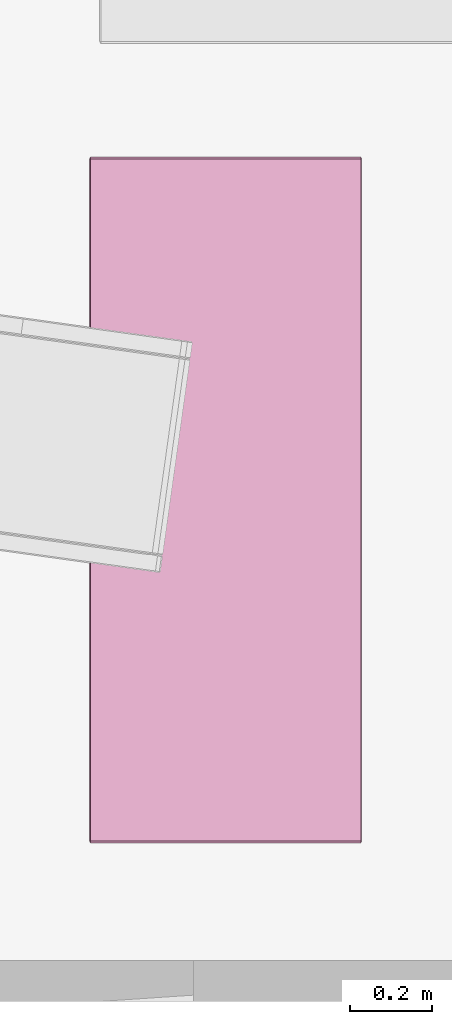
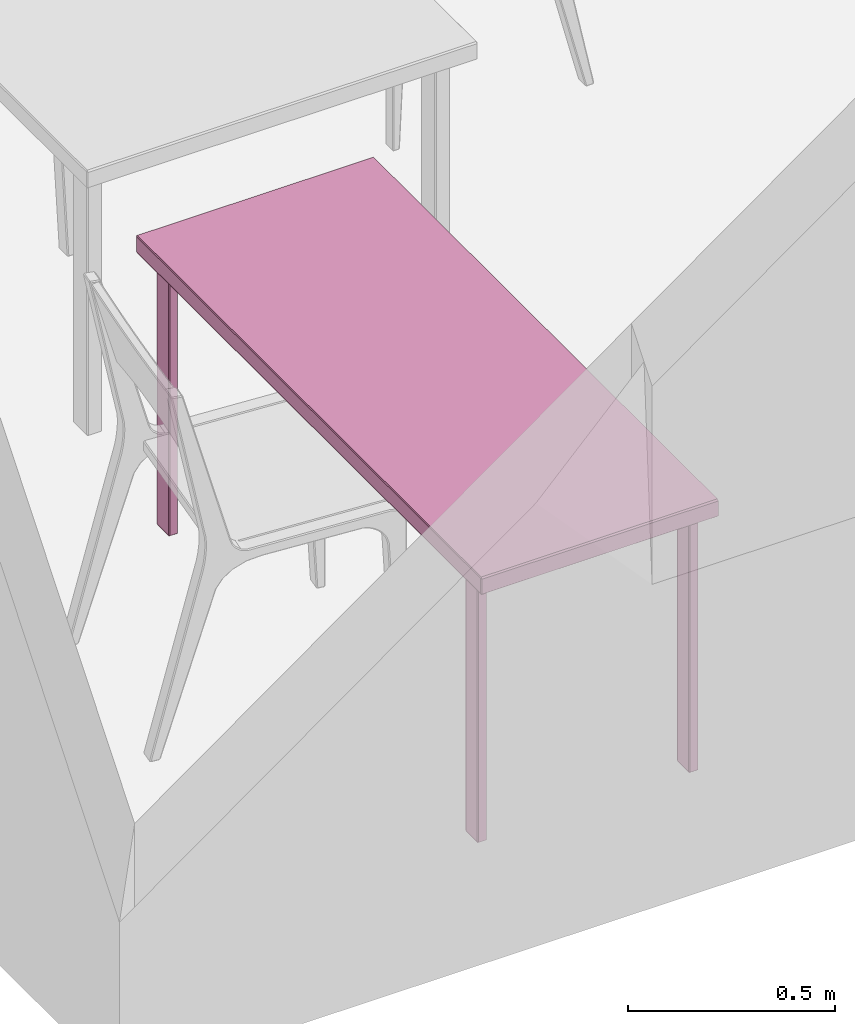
# One storey, part 6 of 26: 1 furniture element.
"""IFC4 building model written with IfcOpenShell, lengths in metres."""

import ifcopenshell
import ifcopenshell.guid

model = None  # the IFC model being written
_history = None  # IfcOwnerHistory: only IFC2X3 demands one
_inside = {}  # id of a spatial element -> (the spatial element, [elements in it])
_under = {}  # id of a project, library or spatial element -> (it, [spatial elements below it])
_declared = {}  # id of a project -> (the project, [libraries it declares])
_typed = {}  # id of a type object -> (the type object, [elements of that type])
_made_of = {}  # id of a material, layer set ... -> (it, [elements and type objects made of it])


def new_model(schema):
    """Start an empty IFC model of exactly this schema.

    Asked for "IFC4X3", IfcOpenShell would pick the latest addendum, in which some entities
    have other attributes; the version numbers below select the first issue.
    IFC2X3 requires an IfcOwnerHistory on every rooted entity: one is made here for all.
    """
    global model, _history
    if schema == "IFC4X3":
        model = ifcopenshell.file(schema_version=(4, 3, 0, 0))
    else:
        model = ifcopenshell.file(schema=schema)
    _inside.clear()
    _under.clear()
    _declared.clear()
    _typed.clear()
    _made_of.clear()
    _history = None
    if model.schema == "IFC2X3":
        org = make("IfcOrganization", Name="unknown")
        user = make(
            "IfcPersonAndOrganization",
            ThePerson=make("IfcPerson", FamilyName="unknown"),
            TheOrganization=org,
        )
        app = make(
            "IfcApplication",
            ApplicationDeveloper=org,
            Version="unknown",
            ApplicationFullName="unknown",
            ApplicationIdentifier="unknown",
        )
        _history = make(
            "IfcOwnerHistory",
            OwningUser=user,
            OwningApplication=app,
            ChangeAction="ADDED",
            CreationDate=0,
        )
    return model


def make(cls, **values):
    """One entity of the class cls with the attributes given. An attribute that is None is left unset."""
    return model.create_entity(
        cls, **{name: value for name, value in values.items() if value is not None}
    )


def rooted(cls, **values):
    """An entity with a GlobalId (a new one), such as an element, a storey or a relation."""
    return make(cls, GlobalId=ifcopenshell.guid.new(), OwnerHistory=_history, **values)


def si_unit(unit_type, name, prefix=None):
    """IfcSIUnit, for example si_unit("LENGTHUNIT", "METRE", prefix="MILLI")."""
    return make("IfcSIUnit", UnitType=unit_type, Prefix=prefix, Name=name)


def assignment(units):
    """IfcUnitAssignment: the units of a project."""
    return None if units is None else make("IfcUnitAssignment", Units=units)


def point(xyz):
    """IfcCartesianPoint."""
    return None if xyz is None else make("IfcCartesianPoint", Coordinates=xyz)


def direction(xyz):
    """IfcDirection."""
    return None if xyz is None else make("IfcDirection", DirectionRatios=xyz)


def frame(location, z_axis=None, x_axis=None):
    """IfcAxis2Placement3D, a coordinate frame: its origin and axes. An axis left out is left unset."""
    return make(
        "IfcAxis2Placement3D",
        Location=point(location),
        Axis=direction(z_axis),
        RefDirection=direction(x_axis),
    )


def origin_with_axes():
    """The frame at (0, 0, 0) with the z axis (0, 0, 1) and the x axis (1, 0, 0) written out."""
    return frame((0.0, 0.0, 0.0), z_axis=(0.0, 0.0, 1.0), x_axis=(1.0, 0.0, 0.0))


def place(relative_to, where):
    """IfcLocalPlacement: puts the frame where relative to a parent placement (None: the world)."""
    return make(
        "IfcLocalPlacement", PlacementRelTo=relative_to, RelativePlacement=where
    )


def context(
    kind, dimensions, precision=None, world=None, true_north=None, identifier=None
):
    """IfcGeometricRepresentationContext, for example the 3D "Model" context."""
    return make(
        "IfcGeometricRepresentationContext",
        ContextIdentifier=identifier,
        ContextType=kind,
        CoordinateSpaceDimension=dimensions,
        Precision=precision,
        WorldCoordinateSystem=world,
        TrueNorth=true_north,
    )


def project(units=None, contexts=None):
    """IfcProject with its units and contexts."""
    return rooted(
        "IfcProject",
        Name="project",
        RepresentationContexts=contexts,
        UnitsInContext=assignment(units),
    )


def spatial(cls, under=None, at=None, **own):
    """A site, building, storey or space (cls), placed at a placement, below another one or the project."""
    s = rooted(cls, ObjectPlacement=at, **own)
    if under is not None:
        _under.setdefault(under.id(), (under, []))[1].append(s)
    return s


def point_list(points):
    """IfcCartesianPointList2D or 3D."""
    cls = (
        "IfcCartesianPointList2D" if len(points[0]) == 2 else "IfcCartesianPointList3D"
    )
    return make(cls, CoordList=points)


def polygons(points, faces, closed=None, point_numbers=None):
    """IfcPolygonalFaceSet: a face is its outer loop, then its inner loops; points numbered from 1."""
    made = []
    for loops in faces:
        if len(loops) == 1:
            made.append(make("IfcIndexedPolygonalFace", CoordIndex=loops[0]))
        else:
            made.append(
                make(
                    "IfcIndexedPolygonalFaceWithVoids",
                    CoordIndex=loops[0],
                    InnerCoordIndices=loops[1:],
                )
            )
    return make(
        "IfcPolygonalFaceSet",
        Coordinates=point_list(points),
        Closed=closed,
        Faces=made,
        PnIndex=point_numbers,
    )


def shape(context_of_items, identifier, shape_type, items):
    """IfcShapeRepresentation: the items that make up one representation, for example the "Body"."""
    return make(
        "IfcShapeRepresentation",
        ContextOfItems=context_of_items,
        RepresentationIdentifier=identifier,
        RepresentationType=shape_type,
        Items=items,
    )


def made_of(thing, what):
    """Note that an element or type object is made of a material, layer set ...; save() writes the relation."""
    if what is not None:
        _made_of.setdefault(what.id(), (what, []))[1].append(thing)
    return thing


def type_object(cls, material=None, **own):
    """A type object (cls), such as IfcWallType, which elements share."""
    return made_of(rooted(cls, **own), material)


def element(
    cls,
    number,
    at=None,
    inside=None,
    cuts=None,
    type_object=None,
    material=None,
    context=None,
    identifier="Body",
    shape_type=None,
    held_by="IfcProductDefinitionShape",
    body=None,
    shapes=None,
    **own,
):
    """One element of the class cls, such as IfcWall. Its Tag is "e" and its number.

    at: its placement. inside: the storey or other place that contains it. cuts: it is an
    opening in that element (IfcRelVoidsElement). A single representation is given by context,
    identifier, shape_type and body (its items); several are given by shapes. held_by: the class
    of the entity that holds the representations. save() writes the other relations.
    """
    e = rooted(cls, Tag="e%d" % number, ObjectPlacement=at, **own)
    if body is not None:
        shapes = [shape(context, identifier, shape_type, body)]
    if shapes is not None:
        e.Representation = make(held_by, Representations=shapes)
    if inside is not None:
        _inside.setdefault(inside.id(), (inside, []))[1].append(e)
    if cuts is not None:
        rooted(
            "IfcRelVoidsElement", RelatingBuildingElement=cuts, RelatedOpeningElement=e
        )
    if type_object is not None:
        _typed.setdefault(type_object.id(), (type_object, []))[1].append(e)
    return made_of(e, material)


def aggregate(whole, parts):
    """IfcRelAggregates: a whole, such as a stair, and the parts it consists of."""
    return rooted("IfcRelAggregates", RelatingObject=whole, RelatedObjects=parts)


def save(model, path):
    """Write the relations noted so far, then the file.

    IfcRelAggregates (storeys below a building ...), IfcRelContainedInSpatialStructure (elements
    in a storey), IfcRelDefinesByType, IfcRelAssociatesMaterial and IfcRelDeclares: one each for
    every whole, place, type object, material and project.
    """
    for whole, parts in _under.values():
        aggregate(whole, parts)
    for where, things in _inside.values():
        rooted(
            "IfcRelContainedInSpatialStructure",
            RelatedElements=things,
            RelatingStructure=where,
        )
    for kind, things in _typed.values():
        rooted("IfcRelDefinesByType", RelatedObjects=things, RelatingType=kind)
    for what, things in _made_of.values():
        rooted("IfcRelAssociatesMaterial", RelatedObjects=things, RelatingMaterial=what)
    for by, libraries in _declared.values():
        rooted("IfcRelDeclares", RelatingContext=by, RelatedDefinitions=libraries)
    model.write(path)


model = new_model("IFC4")

# Units and contexts
model_context = context("Model", 3, precision=1e-05, world=origin_with_axes(), true_north=direction((0.996, -0.093, 0.0)))
ifc_project = project(units=[si_unit("LENGTHUNIT", "METRE"), si_unit("AREAUNIT", "SQUARE_METRE")], contexts=[model_context])

# Site, building, storey, space
site_placement = place(None, origin_with_axes())
site = spatial("IfcSite", under=ifc_project, at=site_placement, Name="Site", CompositionType="ELEMENT")
building_placement = place(site_placement, origin_with_axes())
building = spatial("IfcBuilding", under=site, at=building_placement, Name="Building", CompositionType="ELEMENT")
storey_placement = place(building_placement, frame((0.0, 0.0, 0.0500001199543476), z_axis=(0.0, 0.0, 1.0), x_axis=(1.0, 0.0, 0.0)))
storey = spatial("IfcBuildingStorey", under=building, at=storey_placement, Name="Story 0", CompositionType="ELEMENT", Elevation=0.0500000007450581)
space_placement = place(storey_placement, frame((1.81268445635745, 0.76919262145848, 0.0), z_axis=(0.0, 0.0, 1.0), x_axis=(1.0, 0.0, 0.0)))
space = spatial("IfcSpace", under=storey, at=space_placement, Name="013", CompositionType="ELEMENT")

# Furniture
furniture_type = type_object("IfcFurnitureType", Name="19155ce9-58e0-4843-879d-90afc4240d9e", AssemblyPlace="NOTDEFINED", PredefinedType="USERDEFINED")
furniture_placement = place(space_placement, frame((-2.44607953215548, -4.33557288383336, 0.412878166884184), z_axis=(0.0, 0.0, 1.0000000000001), x_axis=(-0.999999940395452, 0.0, 0.0)))
element("IfcFurniture", 1, at=furniture_placement, inside=space, type_object=furniture_type, Name="Table", ObjectType="Table", PredefinedType="USERDEFINED", context=model_context, shape_type="Tessellation", body=[
    polygons([(0.329, 0.8338, 0.365), (-0.329, 0.8338, 0.365), (0.329, 0.8338, 0.4092), (-0.329, 0.8338, 0.4092), (0.329, 0.8338, 0.4092), (-0.329, 0.8338, 0.365), (0.282, -0.772, 0.3743), (0.282, -0.7173, 0.3743), (0.282, -0.772, -0.4092), (0.282, -0.7173, -0.4092), (0.282, -0.772, -0.4092), (0.282, -0.7173, 0.3743), (0.3054, -0.7762, 0.3743), (0.2837, -0.7762, 0.3743), (0.3054, -0.7762, -0.4092), (0.2837, -0.7762, -0.4092), (0.3054, -0.7762, -0.4092), (0.2837, -0.7762, 0.3743), (0.307, -0.7173, 0.3743), (0.307, -0.772, 0.3743), (0.307, -0.7173, -0.4092), (0.307, -0.772, -0.4092), (0.307, -0.7173, -0.4092), (0.307, -0.772, 0.3743), (0.2837, -0.7131, 0.3743), (0.3054, -0.7131, 0.3743), (0.2837, -0.7131, -0.4092), (0.3054, -0.7131, -0.4092), (0.2837, -0.7131, -0.4092), (0.3054, -0.7131, 0.3743), (0.282, 0.772, 0.3743), (0.282, 0.772, -0.4092), (0.282, 0.7173, 0.3743), (0.282, 0.7173, -0.4092), (0.282, 0.7173, 0.3743), (0.282, 0.772, -0.4092), (0.3054, 0.7762, 0.3743), (0.3054, 0.7762, -0.4092), (0.2837, 0.7762, 0.3743), (0.2837, 0.7762, -0.4092), (0.2837, 0.7762, 0.3743), (0.3054, 0.7762, -0.4092), (0.307, 0.7173, 0.3743), (0.307, 0.7173, -0.4092), (0.307, 0.772, 0.3743), (0.307, 0.772, -0.4092), (0.307, 0.772, 0.3743), (0.307, 0.7173, -0.4092), (0.2837, 0.7131, 0.3743), (0.2837, 0.7131, -0.4092), (0.3054, 0.7131, 0.3743), (0.3054, 0.7131, -0.4092), (0.3054, 0.7131, 0.3743), (0.2837, 0.7131, -0.4092), (0.3306, 0.8296, 0.365), (0.3306, 0.8296, 0.4092), (0.3306, -0.8296, 0.365), (0.3306, -0.8296, 0.4092), (0.3306, -0.8296, 0.365), (0.3306, 0.8296, 0.4092), (-0.3306, 0.8296, 0.4092), (-0.3306, 0.8296, 0.365), (-0.3306, -0.8296, 0.4092), (-0.3306, -0.8296, 0.365), (-0.3306, -0.8296, 0.4092), (-0.3306, 0.8296, 0.365), (-0.282, -0.772, 0.3743), (-0.282, -0.772, -0.4092), (-0.282, -0.7173, 0.3743), (-0.282, -0.7173, -0.4092), (-0.282, -0.7173, 0.3743), (-0.282, -0.772, -0.4092), (-0.3054, -0.7762, 0.3743), (-0.3054, -0.7762, -0.4092), (-0.2837, -0.7762, 0.3743), (-0.2837, -0.7762, -0.4092), (-0.2837, -0.7762, 0.3743), (-0.3054, -0.7762, -0.4092), (-0.307, -0.7173, 0.3743), (-0.307, -0.7173, -0.4092), (-0.307, -0.772, 0.3743), (-0.307, -0.772, -0.4092), (-0.307, -0.772, 0.3743), (-0.307, -0.7173, -0.4092), (-0.2837, -0.7131, 0.3743), (-0.2837, -0.7131, -0.4092), (-0.3054, -0.7131, 0.3743), (-0.3054, -0.7131, -0.4092), (-0.3054, -0.7131, 0.3743), (-0.2837, -0.7131, -0.4092), (-0.282, 0.772, 0.3743), (-0.282, 0.7173, 0.3743), (-0.282, 0.772, -0.4092), (-0.282, 0.7173, -0.4092), (-0.282, 0.772, -0.4092), (-0.282, 0.7173, 0.3743), (-0.3054, 0.7762, 0.3743), (-0.2837, 0.7762, 0.3743), (-0.3054, 0.7762, -0.4092), (-0.2837, 0.7762, -0.4092), (-0.3054, 0.7762, -0.4092), (-0.2837, 0.7762, 0.3743), (-0.307, 0.7173, 0.3743), (-0.307, 0.772, 0.3743), (-0.307, 0.7173, -0.4092), (-0.307, 0.772, -0.4092), (-0.307, 0.7173, -0.4092), (-0.307, 0.772, 0.3743), (-0.2837, 0.7131, 0.3743), (-0.3054, 0.7131, 0.3743), (-0.2837, 0.7131, -0.4092), (-0.3054, 0.7131, -0.4092), (-0.2837, 0.7131, -0.4092), (-0.3054, 0.7131, 0.3743), (-0.329, 0.8296, 0.4129), (-0.329, -0.8296, 0.4129), (0.329, 0.8296, 0.4129), (0.329, -0.8296, 0.4129), (0.329, 0.8296, 0.4129), (-0.329, -0.8296, 0.4129), (0.329, -0.8338, 0.365), (0.329, -0.8338, 0.4092), (-0.329, -0.8338, 0.365), (-0.329, -0.8338, 0.4092), (-0.329, -0.8338, 0.365), (0.329, -0.8338, 0.4092), (0.329, -0.8296, 0.3613), (-0.329, -0.8296, 0.3613), (0.329, 0.8296, 0.3613), (-0.329, 0.8296, 0.3613), (0.329, 0.8296, 0.3613), (-0.329, -0.8296, 0.3613), (0.3054, -0.772, 0.3779), (0.3054, -0.7173, 0.3779), (0.2837, -0.772, 0.3779), (0.2837, -0.7173, 0.3779), (0.2837, -0.772, 0.3779), (0.3054, -0.7173, 0.3779), (0.3054, -0.7173, -0.4129), (0.3054, -0.772, -0.4129), (0.2837, -0.7173, -0.4129), (0.2837, -0.772, -0.4129), (0.2837, -0.7173, -0.4129), (0.3054, -0.772, -0.4129), (0.3054, 0.772, -0.4129), (0.3054, 0.7173, -0.4129), (0.2837, 0.772, -0.4129), (0.2837, 0.7173, -0.4129), (0.2837, 0.772, -0.4129), (0.3054, 0.7173, -0.4129), (0.3054, 0.7173, 0.3779), (0.3054, 0.772, 0.3779), (0.2837, 0.7173, 0.3779), (0.2837, 0.772, 0.3779), (0.2837, 0.7173, 0.3779), (0.3054, 0.772, 0.3779), (-0.3054, -0.772, -0.4129), (-0.3054, -0.7173, -0.4129), (-0.2837, -0.772, -0.4129), (-0.2837, -0.7173, -0.4129), (-0.2837, -0.772, -0.4129), (-0.3054, -0.7173, -0.4129), (-0.3054, -0.7173, 0.3779), (-0.3054, -0.772, 0.3779), (-0.2837, -0.7173, 0.3779), (-0.2837, -0.772, 0.3779), (-0.2837, -0.7173, 0.3779), (-0.3054, -0.772, 0.3779), (-0.3054, 0.772, 0.3779), (-0.3054, 0.7173, 0.3779), (-0.2837, 0.772, 0.3779), (-0.2837, 0.7173, 0.3779), (-0.2837, 0.772, 0.3779), (-0.3054, 0.7173, 0.3779), (-0.3054, 0.7173, -0.4129), (-0.3054, 0.772, -0.4129), (-0.2837, 0.7173, -0.4129), (-0.2837, 0.772, -0.4129), (-0.2837, 0.7173, -0.4129), (-0.3054, 0.772, -0.4129), (-0.329, 0.8296, 0.4129), (-0.329, 0.8338, 0.4092), (-0.3306, 0.8296, 0.4092), (0.2837, -0.7173, -0.4129), (0.282, -0.7173, -0.4092), (0.2837, -0.7131, -0.4092), (0.2837, -0.772, -0.4129), (0.2837, -0.7762, -0.4092), (0.282, -0.772, -0.4092), (0.3054, -0.772, -0.4129), (0.307, -0.772, -0.4092), (0.3054, -0.7762, -0.4092), (0.3054, -0.7173, -0.4129), (0.3054, -0.7131, -0.4092), (0.307, -0.7173, -0.4092), (0.2837, -0.7173, 0.3779), (0.2837, -0.7131, 0.3743), (0.282, -0.7173, 0.3743), (0.2837, 0.7131, -0.4092), (0.282, 0.7173, -0.4092), (0.2837, 0.7173, -0.4129), (0.2837, 0.772, 0.3779), (0.2837, 0.7762, 0.3743), (0.282, 0.772, 0.3743), (0.3054, 0.772, 0.3779), (0.307, 0.772, 0.3743), (0.3054, 0.7762, 0.3743), (0.3054, 0.7173, 0.3779), (0.3054, 0.7131, 0.3743), (0.307, 0.7173, 0.3743), (0.329, -0.8338, 0.4092), (0.3306, -0.8296, 0.4092), (0.329, -0.8296, 0.4129), (0.329, 0.8296, 0.4129), (0.3306, 0.8296, 0.4092), (0.329, 0.8338, 0.4092), (-0.329, -0.8338, 0.365), (-0.3306, -0.8296, 0.365), (-0.329, -0.8296, 0.3613), (-0.329, 0.8296, 0.3613), (-0.3306, 0.8296, 0.365), (-0.329, 0.8338, 0.365), (-0.2837, -0.7131, -0.4092), (-0.282, -0.7173, -0.4092), (-0.2837, -0.7173, -0.4129), (-0.2837, -0.772, 0.3779), (-0.2837, -0.7762, 0.3743), (-0.282, -0.772, 0.3743), (-0.3054, -0.772, 0.3779), (-0.307, -0.772, 0.3743), (-0.3054, -0.7762, 0.3743), (-0.3054, -0.7173, 0.3779), (-0.3054, -0.7131, 0.3743), (-0.307, -0.7173, 0.3743), (-0.2837, 0.7173, -0.4129), (-0.282, 0.7173, -0.4092), (-0.2837, 0.7131, -0.4092), (-0.2837, 0.772, -0.4129), (-0.2837, 0.7762, -0.4092), (-0.282, 0.772, -0.4092), (-0.3054, 0.772, -0.4129), (-0.307, 0.772, -0.4092), (-0.3054, 0.7762, -0.4092), (-0.3054, 0.7173, -0.4129), (-0.3054, 0.7131, -0.4092), (-0.307, 0.7173, -0.4092), (-0.2837, 0.7173, 0.3779), (-0.2837, 0.7131, 0.3743), (-0.282, 0.7173, 0.3743), (-0.329, -0.8338, 0.4092), (-0.329, -0.8296, 0.4129), (-0.3306, -0.8296, 0.4092), (0.329, -0.8338, 0.365), (0.329, -0.8296, 0.3613), (0.3306, -0.8296, 0.365), (0.3306, 0.8296, 0.365), (0.329, 0.8296, 0.3613), (0.329, 0.8338, 0.365), (0.3054, -0.7131, 0.3743), (0.3054, -0.7173, 0.3779), (0.307, -0.7173, 0.3743), (0.307, -0.772, 0.3743), (0.3054, -0.772, 0.3779), (0.3054, -0.7762, 0.3743), (0.2837, -0.7762, 0.3743), (0.2837, -0.772, 0.3779), (0.282, -0.772, 0.3743), (0.3054, 0.7131, -0.4092), (0.3054, 0.7173, -0.4129), (0.307, 0.7173, -0.4092), (0.307, 0.772, -0.4092), (0.3054, 0.772, -0.4129), (0.3054, 0.7762, -0.4092), (0.2837, 0.7762, -0.4092), (0.2837, 0.772, -0.4129), (0.282, 0.772, -0.4092), (0.2837, 0.7131, 0.3743), (0.2837, 0.7173, 0.3779), (0.282, 0.7173, 0.3743), (-0.3054, -0.7131, -0.4092), (-0.3054, -0.7173, -0.4129), (-0.307, -0.7173, -0.4092), (-0.307, -0.772, -0.4092), (-0.3054, -0.772, -0.4129), (-0.3054, -0.7762, -0.4092), (-0.2837, -0.7762, -0.4092), (-0.2837, -0.772, -0.4129), (-0.282, -0.772, -0.4092), (-0.2837, -0.7131, 0.3743), (-0.2837, -0.7173, 0.3779), (-0.282, -0.7173, 0.3743), (-0.3054, 0.7131, 0.3743), (-0.3054, 0.7173, 0.3779), (-0.307, 0.7173, 0.3743), (-0.307, 0.772, 0.3743), (-0.3054, 0.772, 0.3779), (-0.3054, 0.7762, 0.3743), (-0.2837, 0.7762, 0.3743), (-0.2837, 0.772, 0.3779), (-0.282, 0.772, 0.3743), (-0.329, 0.8338, 0.4092), (-0.329, 0.8338, 0.365), (-0.3306, 0.8296, 0.4092), (-0.3306, 0.8296, 0.365), (-0.3306, 0.8296, 0.4092), (-0.329, 0.8338, 0.365), (-0.329, 0.8338, 0.365), (0.329, 0.8338, 0.365), (-0.329, 0.8296, 0.3613), (0.329, 0.8296, 0.3613), (-0.329, 0.8296, 0.3613), (0.329, 0.8338, 0.365), (0.329, 0.8338, 0.365), (0.329, 0.8338, 0.4092), (0.3306, 0.8296, 0.365), (0.3306, 0.8296, 0.4092), (0.3306, 0.8296, 0.365), (0.329, 0.8338, 0.4092), (0.329, 0.8338, 0.4092), (-0.329, 0.8338, 0.4092), (0.329, 0.8296, 0.4129), (-0.329, 0.8296, 0.4129), (0.329, 0.8296, 0.4129), (-0.329, 0.8338, 0.4092), (0.282, -0.7173, -0.4092), (0.282, -0.7173, 0.3743), (0.2837, -0.7131, -0.4092), (0.2837, -0.7131, 0.3743), (0.2837, -0.7131, -0.4092), (0.282, -0.7173, 0.3743), (0.282, -0.7173, 0.3743), (0.282, -0.772, 0.3743), (0.2837, -0.7173, 0.3779), (0.2837, -0.772, 0.3779), (0.2837, -0.7173, 0.3779), (0.282, -0.772, 0.3743), (0.282, -0.772, 0.3743), (0.282, -0.772, -0.4092), (0.2837, -0.7762, 0.3743), (0.2837, -0.7762, -0.4092), (0.2837, -0.7762, 0.3743), (0.282, -0.772, -0.4092), (0.282, -0.772, -0.4092), (0.282, -0.7173, -0.4092), (0.2837, -0.772, -0.4129), (0.2837, -0.7173, -0.4129), (0.2837, -0.772, -0.4129), (0.282, -0.7173, -0.4092), (0.2837, -0.7762, 0.3743), (0.3054, -0.7762, 0.3743), (0.2837, -0.772, 0.3779), (0.3054, -0.772, 0.3779), (0.2837, -0.772, 0.3779), (0.3054, -0.7762, 0.3743), (0.3054, -0.7762, 0.3743), (0.3054, -0.7762, -0.4092), (0.307, -0.772, 0.3743), (0.307, -0.772, -0.4092), (0.307, -0.772, 0.3743), (0.3054, -0.7762, -0.4092), (0.3054, -0.7762, -0.4092), (0.2837, -0.7762, -0.4092), (0.3054, -0.772, -0.4129), (0.2837, -0.772, -0.4129), (0.3054, -0.772, -0.4129), (0.2837, -0.7762, -0.4092), (0.307, -0.772, 0.3743), (0.307, -0.7173, 0.3743), (0.3054, -0.772, 0.3779), (0.3054, -0.7173, 0.3779), (0.3054, -0.772, 0.3779), (0.307, -0.7173, 0.3743), (0.307, -0.7173, 0.3743), (0.307, -0.7173, -0.4092), (0.3054, -0.7131, 0.3743), (0.3054, -0.7131, -0.4092), (0.3054, -0.7131, 0.3743), (0.307, -0.7173, -0.4092), (0.307, -0.7173, -0.4092), (0.307, -0.772, -0.4092), (0.3054, -0.7173, -0.4129), (0.3054, -0.772, -0.4129), (0.3054, -0.7173, -0.4129), (0.307, -0.772, -0.4092), (0.3054, -0.7131, 0.3743), (0.2837, -0.7131, 0.3743), (0.3054, -0.7173, 0.3779), (0.2837, -0.7173, 0.3779), (0.3054, -0.7173, 0.3779), (0.2837, -0.7131, 0.3743), (0.2837, -0.7131, -0.4092), (0.3054, -0.7131, -0.4092), (0.2837, -0.7173, -0.4129), (0.3054, -0.7173, -0.4129), (0.2837, -0.7173, -0.4129), (0.3054, -0.7131, -0.4092), (0.282, 0.7173, -0.4092), (0.282, 0.772, -0.4092), (0.2837, 0.7173, -0.4129), (0.2837, 0.772, -0.4129), (0.2837, 0.7173, -0.4129), (0.282, 0.772, -0.4092), (0.282, 0.772, -0.4092), (0.282, 0.772, 0.3743), (0.2837, 0.7762, -0.4092), (0.2837, 0.7762, 0.3743), (0.2837, 0.7762, -0.4092), (0.282, 0.772, 0.3743), (0.282, 0.772, 0.3743), (0.282, 0.7173, 0.3743), (0.2837, 0.772, 0.3779), (0.2837, 0.7173, 0.3779), (0.2837, 0.772, 0.3779), (0.282, 0.7173, 0.3743), (0.282, 0.7173, 0.3743), (0.282, 0.7173, -0.4092), (0.2837, 0.7131, 0.3743), (0.2837, 0.7131, -0.4092), (0.2837, 0.7131, 0.3743), (0.282, 0.7173, -0.4092), (0.2837, 0.7762, -0.4092), (0.3054, 0.7762, -0.4092), (0.2837, 0.772, -0.4129), (0.3054, 0.772, -0.4129), (0.2837, 0.772, -0.4129), (0.3054, 0.7762, -0.4092), (0.3054, 0.7762, -0.4092), (0.3054, 0.7762, 0.3743), (0.307, 0.772, -0.4092), (0.307, 0.772, 0.3743), (0.307, 0.772, -0.4092), (0.3054, 0.7762, 0.3743), (0.3054, 0.7762, 0.3743), (0.2837, 0.7762, 0.3743), (0.3054, 0.772, 0.3779), (0.2837, 0.772, 0.3779), (0.3054, 0.772, 0.3779), (0.2837, 0.7762, 0.3743), (0.307, 0.772, -0.4092), (0.307, 0.7173, -0.4092), (0.3054, 0.772, -0.4129), (0.3054, 0.7173, -0.4129), (0.3054, 0.772, -0.4129), (0.307, 0.7173, -0.4092), (0.307, 0.7173, -0.4092), (0.307, 0.7173, 0.3743), (0.3054, 0.7131, -0.4092), (0.3054, 0.7131, 0.3743), (0.3054, 0.7131, -0.4092), (0.307, 0.7173, 0.3743), (0.307, 0.7173, 0.3743), (0.307, 0.772, 0.3743), (0.3054, 0.7173, 0.3779), (0.3054, 0.772, 0.3779), (0.3054, 0.7173, 0.3779), (0.307, 0.772, 0.3743), (0.3054, 0.7131, -0.4092), (0.2837, 0.7131, -0.4092), (0.3054, 0.7173, -0.4129), (0.2837, 0.7173, -0.4129), (0.3054, 0.7173, -0.4129), (0.2837, 0.7131, -0.4092), (0.2837, 0.7131, 0.3743), (0.3054, 0.7131, 0.3743), (0.2837, 0.7173, 0.3779), (0.3054, 0.7173, 0.3779), (0.2837, 0.7173, 0.3779), (0.3054, 0.7131, 0.3743), (0.3306, -0.8296, 0.4092), (0.3306, 0.8296, 0.4092), (0.329, -0.8296, 0.4129), (0.329, 0.8296, 0.4129), (0.329, -0.8296, 0.4129), (0.3306, 0.8296, 0.4092), (0.3306, 0.8296, 0.365), (0.3306, -0.8296, 0.365), (0.329, 0.8296, 0.3613), (0.329, -0.8296, 0.3613), (0.329, 0.8296, 0.3613), (0.3306, -0.8296, 0.365), (0.3306, -0.8296, 0.365), (0.3306, -0.8296, 0.4092), (0.329, -0.8338, 0.365), (0.329, -0.8338, 0.4092), (0.329, -0.8338, 0.365), (0.3306, -0.8296, 0.4092), (-0.3306, -0.8296, 0.365), (-0.3306, 0.8296, 0.365), (-0.329, -0.8296, 0.3613), (-0.329, 0.8296, 0.3613), (-0.329, -0.8296, 0.3613), (-0.3306, 0.8296, 0.365), (-0.3306, 0.8296, 0.4092), (-0.3306, -0.8296, 0.4092), (-0.329, 0.8296, 0.4129), (-0.329, -0.8296, 0.4129), (-0.329, 0.8296, 0.4129), (-0.3306, -0.8296, 0.4092), (-0.3306, -0.8296, 0.4092), (-0.3306, -0.8296, 0.365), (-0.329, -0.8338, 0.4092), (-0.329, -0.8338, 0.365), (-0.329, -0.8338, 0.4092), (-0.3306, -0.8296, 0.365), (-0.282, -0.7173, -0.4092), (-0.282, -0.772, -0.4092), (-0.2837, -0.7173, -0.4129), (-0.2837, -0.772, -0.4129), (-0.2837, -0.7173, -0.4129), (-0.282, -0.772, -0.4092), (-0.282, -0.772, -0.4092), (-0.282, -0.772, 0.3743), (-0.2837, -0.7762, -0.4092), (-0.2837, -0.7762, 0.3743), (-0.2837, -0.7762, -0.4092), (-0.282, -0.772, 0.3743), (-0.282, -0.772, 0.3743), (-0.282, -0.7173, 0.3743), (-0.2837, -0.772, 0.3779), (-0.2837, -0.7173, 0.3779), (-0.2837, -0.772, 0.3779), (-0.282, -0.7173, 0.3743), (-0.282, -0.7173, 0.3743), (-0.282, -0.7173, -0.4092), (-0.2837, -0.7131, 0.3743), (-0.2837, -0.7131, -0.4092), (-0.2837, -0.7131, 0.3743), (-0.282, -0.7173, -0.4092), (-0.2837, -0.7762, -0.4092), (-0.3054, -0.7762, -0.4092), (-0.2837, -0.772, -0.4129), (-0.3054, -0.772, -0.4129), (-0.2837, -0.772, -0.4129), (-0.3054, -0.7762, -0.4092), (-0.3054, -0.7762, -0.4092), (-0.3054, -0.7762, 0.3743), (-0.307, -0.772, -0.4092), (-0.307, -0.772, 0.3743), (-0.307, -0.772, -0.4092), (-0.3054, -0.7762, 0.3743), (-0.3054, -0.7762, 0.3743), (-0.2837, -0.7762, 0.3743), (-0.3054, -0.772, 0.3779), (-0.2837, -0.772, 0.3779), (-0.3054, -0.772, 0.3779), (-0.2837, -0.7762, 0.3743), (-0.307, -0.772, -0.4092), (-0.307, -0.7173, -0.4092), (-0.3054, -0.772, -0.4129), (-0.3054, -0.7173, -0.4129), (-0.3054, -0.772, -0.4129), (-0.307, -0.7173, -0.4092), (-0.307, -0.7173, -0.4092), (-0.307, -0.7173, 0.3743), (-0.3054, -0.7131, -0.4092), (-0.3054, -0.7131, 0.3743), (-0.3054, -0.7131, -0.4092), (-0.307, -0.7173, 0.3743), (-0.307, -0.7173, 0.3743), (-0.307, -0.772, 0.3743), (-0.3054, -0.7173, 0.3779), (-0.3054, -0.772, 0.3779), (-0.3054, -0.7173, 0.3779), (-0.307, -0.772, 0.3743), (-0.3054, -0.7131, -0.4092), (-0.2837, -0.7131, -0.4092), (-0.3054, -0.7173, -0.4129), (-0.2837, -0.7173, -0.4129), (-0.3054, -0.7173, -0.4129), (-0.2837, -0.7131, -0.4092), (-0.2837, -0.7131, 0.3743), (-0.3054, -0.7131, 0.3743), (-0.2837, -0.7173, 0.3779), (-0.3054, -0.7173, 0.3779), (-0.2837, -0.7173, 0.3779), (-0.3054, -0.7131, 0.3743), (-0.282, 0.7173, -0.4092), (-0.282, 0.7173, 0.3743), (-0.2837, 0.7131, -0.4092), (-0.2837, 0.7131, 0.3743), (-0.2837, 0.7131, -0.4092), (-0.282, 0.7173, 0.3743), (-0.282, 0.7173, 0.3743), (-0.282, 0.772, 0.3743), (-0.2837, 0.7173, 0.3779), (-0.2837, 0.772, 0.3779), (-0.2837, 0.7173, 0.3779), (-0.282, 0.772, 0.3743), (-0.282, 0.772, 0.3743), (-0.282, 0.772, -0.4092), (-0.2837, 0.7762, 0.3743), (-0.2837, 0.7762, -0.4092), (-0.2837, 0.7762, 0.3743), (-0.282, 0.772, -0.4092), (-0.282, 0.772, -0.4092), (-0.282, 0.7173, -0.4092), (-0.2837, 0.772, -0.4129), (-0.2837, 0.7173, -0.4129), (-0.2837, 0.772, -0.4129), (-0.282, 0.7173, -0.4092), (-0.2837, 0.7762, 0.3743), (-0.3054, 0.7762, 0.3743), (-0.2837, 0.772, 0.3779), (-0.3054, 0.772, 0.3779), (-0.2837, 0.772, 0.3779), (-0.3054, 0.7762, 0.3743), (-0.3054, 0.7762, 0.3743), (-0.3054, 0.7762, -0.4092), (-0.307, 0.772, 0.3743), (-0.307, 0.772, -0.4092), (-0.307, 0.772, 0.3743), (-0.3054, 0.7762, -0.4092), (-0.3054, 0.7762, -0.4092), (-0.2837, 0.7762, -0.4092), (-0.3054, 0.772, -0.4129), (-0.2837, 0.772, -0.4129), (-0.3054, 0.772, -0.4129), (-0.2837, 0.7762, -0.4092), (-0.307, 0.772, 0.3743), (-0.307, 0.7173, 0.3743), (-0.3054, 0.772, 0.3779), (-0.3054, 0.7173, 0.3779), (-0.3054, 0.772, 0.3779), (-0.307, 0.7173, 0.3743), (-0.307, 0.7173, 0.3743), (-0.307, 0.7173, -0.4092), (-0.3054, 0.7131, 0.3743), (-0.3054, 0.7131, -0.4092), (-0.3054, 0.7131, 0.3743), (-0.307, 0.7173, -0.4092), (-0.307, 0.7173, -0.4092), (-0.307, 0.772, -0.4092), (-0.3054, 0.7173, -0.4129), (-0.3054, 0.772, -0.4129), (-0.3054, 0.7173, -0.4129), (-0.307, 0.772, -0.4092), (-0.3054, 0.7131, 0.3743), (-0.2837, 0.7131, 0.3743), (-0.3054, 0.7173, 0.3779), (-0.2837, 0.7173, 0.3779), (-0.3054, 0.7173, 0.3779), (-0.2837, 0.7131, 0.3743), (-0.2837, 0.7131, -0.4092), (-0.3054, 0.7131, -0.4092), (-0.2837, 0.7173, -0.4129), (-0.3054, 0.7173, -0.4129), (-0.2837, 0.7173, -0.4129), (-0.3054, 0.7131, -0.4092), (0.329, -0.8296, 0.4129), (-0.329, -0.8296, 0.4129), (0.329, -0.8338, 0.4092), (-0.329, -0.8338, 0.4092), (0.329, -0.8338, 0.4092), (-0.329, -0.8296, 0.4129), (0.329, -0.8338, 0.365), (-0.329, -0.8338, 0.365), (0.329, -0.8296, 0.3613), (-0.329, -0.8296, 0.3613), (0.329, -0.8296, 0.3613), (-0.329, -0.8338, 0.365)], [[[1, 2, 3]], [[4, 5, 6]], [[7, 8, 9]], [[10, 11, 12]], [[13, 14, 15]], [[16, 17, 18]], [[19, 20, 21]], [[22, 23, 24]], [[25, 26, 27]], [[28, 29, 30]], [[31, 32, 33]], [[34, 35, 36]], [[37, 38, 39]], [[40, 41, 42]], [[43, 44, 45]], [[46, 47, 48]], [[49, 50, 51]], [[52, 53, 54]], [[55, 56, 57]], [[58, 59, 60]], [[61, 62, 63]], [[64, 65, 66]], [[67, 68, 69]], [[70, 71, 72]], [[73, 74, 75]], [[76, 77, 78]], [[79, 80, 81]], [[82, 83, 84]], [[85, 86, 87]], [[88, 89, 90]], [[91, 92, 93]], [[94, 95, 96]], [[97, 98, 99]], [[100, 101, 102]], [[103, 104, 105]], [[106, 107, 108]], [[109, 110, 111]], [[112, 113, 114]], [[115, 116, 117]], [[118, 119, 120]], [[121, 122, 123]], [[124, 125, 126]], [[127, 128, 129]], [[130, 131, 132]], [[133, 134, 135]], [[136, 137, 138]], [[139, 140, 141]], [[142, 143, 144]], [[145, 146, 147]], [[148, 149, 150]], [[151, 152, 153]], [[154, 155, 156]], [[157, 158, 159]], [[160, 161, 162]], [[163, 164, 165]], [[166, 167, 168]], [[169, 170, 171]], [[172, 173, 174]], [[175, 176, 177]], [[178, 179, 180]], [[181, 182, 183]], [[184, 185, 186]], [[187, 188, 189]], [[190, 191, 192]], [[193, 194, 195]], [[196, 197, 198]], [[199, 200, 201]], [[202, 203, 204]], [[205, 206, 207]], [[208, 209, 210]], [[211, 212, 213]], [[214, 215, 216]], [[217, 218, 219]], [[220, 221, 222]], [[223, 224, 225]], [[226, 227, 228]], [[229, 230, 231]], [[232, 233, 234]], [[235, 236, 237]], [[238, 239, 240]], [[241, 242, 243]], [[244, 245, 246]], [[247, 248, 249]], [[250, 251, 252]], [[253, 254, 255]], [[256, 257, 258]], [[259, 260, 261]], [[262, 263, 264]], [[265, 266, 267]], [[268, 269, 270]], [[271, 272, 273]], [[274, 275, 276]], [[277, 278, 279]], [[280, 281, 282]], [[283, 284, 285]], [[286, 287, 288]], [[289, 290, 291]], [[292, 293, 294]], [[295, 296, 297]], [[298, 299, 300]], [[301, 302, 303]], [[304, 305, 306]], [[307, 308, 309]], [[310, 311, 312]], [[313, 314, 315]], [[316, 317, 318]], [[319, 320, 321]], [[322, 323, 324]], [[325, 326, 327]], [[328, 329, 330]], [[331, 332, 333]], [[334, 335, 336]], [[337, 338, 339]], [[340, 341, 342]], [[343, 344, 345]], [[346, 347, 348]], [[349, 350, 351]], [[352, 353, 354]], [[355, 356, 357]], [[358, 359, 360]], [[361, 362, 363]], [[364, 365, 366]], [[367, 368, 369]], [[370, 371, 372]], [[373, 374, 375]], [[376, 377, 378]], [[379, 380, 381]], [[382, 383, 384]], [[385, 386, 387]], [[388, 389, 390]], [[391, 392, 393]], [[394, 395, 396]], [[397, 398, 399]], [[400, 401, 402]], [[403, 404, 405]], [[406, 407, 408]], [[409, 410, 411]], [[412, 413, 414]], [[415, 416, 417]], [[418, 419, 420]], [[421, 422, 423]], [[424, 425, 426]], [[427, 428, 429]], [[430, 431, 432]], [[433, 434, 435]], [[436, 437, 438]], [[439, 440, 441]], [[442, 443, 444]], [[445, 446, 447]], [[448, 449, 450]], [[451, 452, 453]], [[454, 455, 456]], [[457, 458, 459]], [[460, 461, 462]], [[463, 464, 465]], [[466, 467, 468]], [[469, 470, 471]], [[472, 473, 474]], [[475, 476, 477]], [[478, 479, 480]], [[481, 482, 483]], [[484, 485, 486]], [[487, 488, 489]], [[490, 491, 492]], [[493, 494, 495]], [[496, 497, 498]], [[499, 500, 501]], [[502, 503, 504]], [[505, 506, 507]], [[508, 509, 510]], [[511, 512, 513]], [[514, 515, 516]], [[517, 518, 519]], [[520, 521, 522]], [[523, 524, 525]], [[526, 527, 528]], [[529, 530, 531]], [[532, 533, 534]], [[535, 536, 537]], [[538, 539, 540]], [[541, 542, 543]], [[544, 545, 546]], [[547, 548, 549]], [[550, 551, 552]], [[553, 554, 555]], [[556, 557, 558]], [[559, 560, 561]], [[562, 563, 564]], [[565, 566, 567]], [[568, 569, 570]], [[571, 572, 573]], [[574, 575, 576]], [[577, 578, 579]], [[580, 581, 582]], [[583, 584, 585]], [[586, 587, 588]], [[589, 590, 591]], [[592, 593, 594]], [[595, 596, 597]], [[598, 599, 600]], [[601, 602, 603]], [[604, 605, 606]], [[607, 608, 609]], [[610, 611, 612]], [[613, 614, 615]], [[616, 617, 618]], [[619, 620, 621]], [[622, 623, 624]], [[625, 626, 627]], [[628, 629, 630]], [[631, 632, 633]], [[634, 635, 636]], [[637, 638, 639]], [[640, 641, 642]], [[643, 644, 645]], [[646, 647, 648]], [[649, 650, 651]], [[652, 653, 654]], [[655, 656, 657]], [[658, 659, 660]]]),
])

save(model, "model.ifc")
